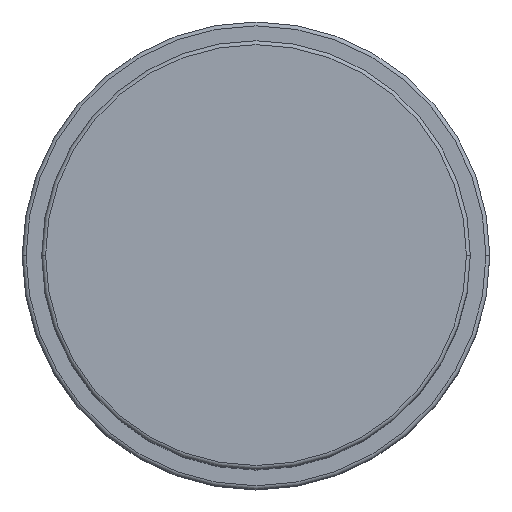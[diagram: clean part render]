
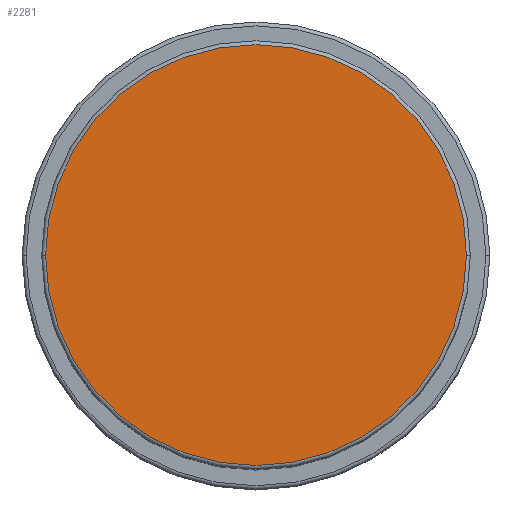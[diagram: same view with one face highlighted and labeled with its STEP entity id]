
A CAD part, top view. The second image highlights one B-rep face of the part: STEP entity #2281.
In plain terms, the highlighted planar face has unit normal (0, 0, 1).
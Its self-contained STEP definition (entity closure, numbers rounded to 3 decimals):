
#200 = FACE_OUTER_BOUND ( 'NONE', #581, .T. ) ;
#581 = EDGE_LOOP ( 'NONE', ( #886, #1250 ) ) ;
#602 = CARTESIAN_POINT ( 'NONE',  ( -27., 0., 81. ) ) ;
#643 = AXIS2_PLACEMENT_3D ( 'NONE', #777, #3818, #3430 ) ;
#769 = CARTESIAN_POINT ( 'NONE',  ( 0., 0., 81. ) ) ;
#777 = CARTESIAN_POINT ( 'NONE',  ( 0., 0., 81. ) ) ;
#886 = ORIENTED_EDGE ( 'NONE', *, *, #3768, .T. ) ;
#1250 = ORIENTED_EDGE ( 'NONE', *, *, #2996, .T. ) ;
#1463 = CIRCLE ( 'NONE', #643, 27. ) ;
#2248 = DIRECTION ( 'NONE',  ( 0., 0., 1. ) ) ;
#2281 = ADVANCED_FACE ( 'NONE', ( #200 ), #3044, .T. ) ;
#2632 = DIRECTION ( 'NONE',  ( 0., 0., 1. ) ) ;
#2660 = DIRECTION ( 'NONE',  ( 1., 0., 0. ) ) ;
#2996 = EDGE_CURVE ( 'NONE', #4906, #4470, #1463, .T. ) ;
#3033 = AXIS2_PLACEMENT_3D ( 'NONE', #4200, #2632, #4601 ) ;
#3044 = PLANE ( 'NONE',  #4048 ) ;
#3430 = DIRECTION ( 'NONE',  ( 1., 0., 0. ) ) ;
#3710 = CIRCLE ( 'NONE', #3033, 27. ) ;
#3768 = EDGE_CURVE ( 'NONE', #4470, #4906, #3710, .T. ) ;
#3797 = CARTESIAN_POINT ( 'NONE',  ( 27., 0., 81. ) ) ;
#3818 = DIRECTION ( 'NONE',  ( 0., 0., 1. ) ) ;
#4048 = AXIS2_PLACEMENT_3D ( 'NONE', #769, #2248, #2660 ) ;
#4200 = CARTESIAN_POINT ( 'NONE',  ( 0., 0., 81. ) ) ;
#4470 = VERTEX_POINT ( 'NONE', #3797 ) ;
#4601 = DIRECTION ( 'NONE',  ( 1., 0., 0. ) ) ;
#4906 = VERTEX_POINT ( 'NONE', #602 ) ;
